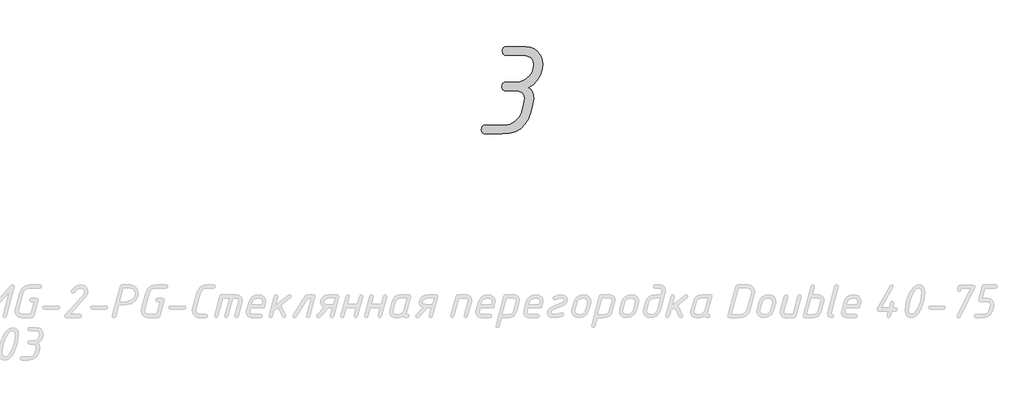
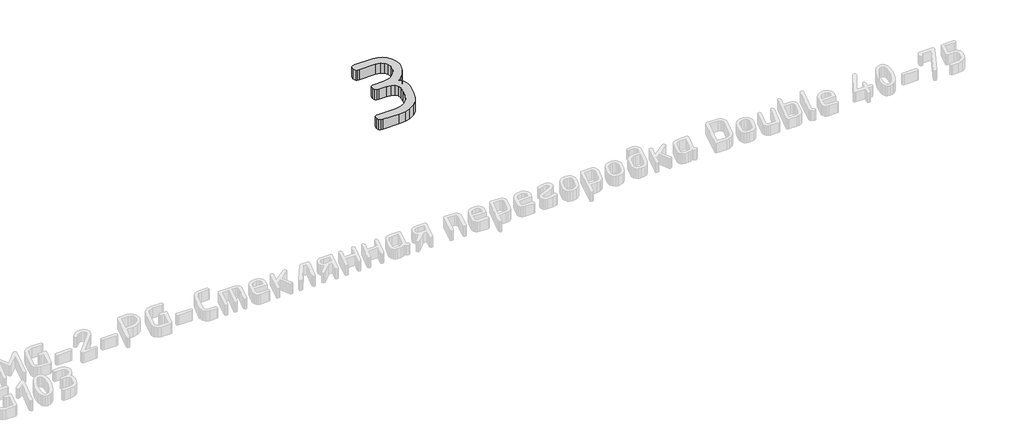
# One storey, part 22 of 22: 1 proxy.
"""IFC4 building model written with IfcOpenShell, lengths in millimetres."""

from ifc_helpers import new_model, si_unit, origin, origin_with_axes, place, context, project, spatial, polyline, outline, extrude, element, save

model = new_model("IFC4")

# Units and contexts
model_context = context("Model", 3, world=origin())
ifc_project = project(units=[si_unit("LENGTHUNIT", "METRE", prefix="MILLI")], contexts=[model_context])

# Site, building, storey
site = spatial("IfcSite", under=ifc_project)
building = spatial("IfcBuilding", under=site)
storey = spatial("IfcBuildingStorey", under=building, Name="Уровень 1", Elevation=0.0)

# Proxy
placement = place(None, origin())
element("IfcBuildingElementProxy", 1, Name="100", ObjectType="100", at=placement, inside=storey, context=model_context, shape_type="SweptSolid", body=[
    extrude(outline(polyline([(-24695.2227144, 1325.376371), (-24684.3159271, 1318.0918622), (-24676.5253646, 1306.998634), (-24671.8510272, 1292.0966865), (-24670.2929147, 1273.3860195), (-24673.3825053, 1250.5869719), (-24683.9297282, 1210.9549826), (-24695.0362736, 1180.6849855), (-24710.457592, 1155.9283094), (-24730.1936834, 1136.6849544), (-24754.2445479, 1122.9549205), (-24782.3704757, 1114.6449872), (-24814.5448326, 1111.8750095), (-24891.8911342, 1111.8750095), (-24900.6072421, 1113.1534608), (-24906.8330334, 1116.9888146), (-24911.8136665, 1132.3302298), (-24906.8330334, 1147.6716449), (-24900.6072421, 1151.5069987), (-24891.8911342, 1152.78545), (-24803.9976097, 1152.78545), (-24778.7082456, 1157.0602714), (-24755.0435799, 1169.8847357), (-24736.2263753, 1188.8617467), (-24725.4793944, 1211.5942083), (-24714.9321714, 1250.8000471), (-24711.5229681, 1273.0664067), (-24714.6125586, 1289.0537061), (-24723.8813303, 1300.4732057), (-24739.3292831, 1307.3249054), (-24760.956417, 1309.6088054), (-24796.9661277, 1309.6088054), (-24805.7288458, 1310.8872566), (-24811.9879301, 1314.7226104), (-24816.9951975, 1330.0640256), (-24811.9879301, 1345.4054408), (-24805.7288458, 1349.2407946), (-24796.9661277, 1350.5192459), (-24749.9830437, 1350.5192459), (-24732.5974382, 1352.416947), (-24716.4503323, 1358.1100503), (-24701.5417261, 1367.5985558), (-24687.8716196, 1380.8824635), (-24677.8570847, 1395.7710938), (-24671.8909788, 1411.8849067), (-24669.4406139, 1430.2093748), (-24672.470277, 1449.0398966), (-24681.5592665, 1462.4902693), (-24696.7075823, 1470.5604929), (-24717.9152244, 1473.2505675), (-24795.4746012, 1473.2505675), (-24804.2373193, 1474.5290187), (-24810.4964036, 1478.3643725), (-24815.5036711, 1493.7057877), (-24810.4964036, 1509.0472029), (-24804.2373193, 1512.8825567), (-24795.4746012, 1514.161008), (-24707.0483886, 1514.161008), (-24685.2481311, 1511.4842507), (-24666.5108297, 1503.4539786), (-24650.8364845, 1490.0701919), (-24638.2250955, 1471.3328906), (-24630.7141943, 1451.7566056), (-24628.2105605, 1431.3812885), (-24630.6609255, 1411.8849067), (-24641.048342, 1381.3485655), (-24655.2711123, 1356.7516958), (-24673.3292365, 1338.0942976), (-24695.2227144, 1325.376371)])), origin_with_axes(), (0.0, 0.0, 1.0), 50.0),
])

save(model, "model.ifc")
